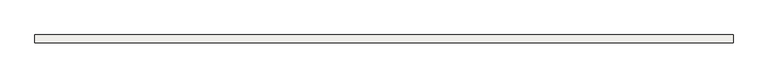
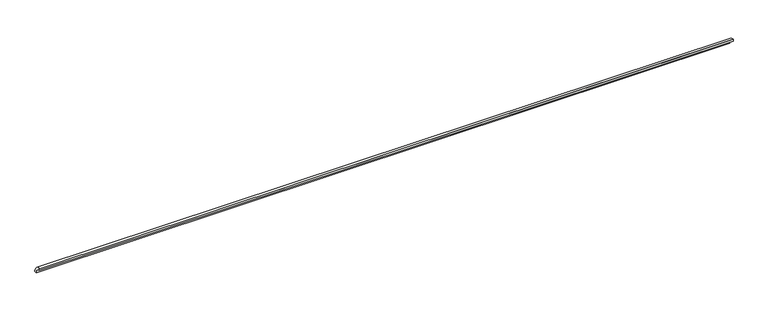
"""IFC4 building model written with IfcOpenShell, lengths in millimetres: slab geometry, ROSA GRES_138 : Pieza 138_Aqua_Plomo_Anti-Slip."""

from ifc_helpers import new_model, si_unit, point, frame, frame_2d, origin, origin_2d, place, context, project, spatial, polyline, circle_curve, trimmed, segment, composite_curve, outline, extrude, source, transform, mapped, element, save


def slab_d9ea31a1(model_context):
    return source(origin(), model_context, "Body", "SweptSolid", [
        extrude(outline(composite_curve([segment(trimmed(circle_curve(origin_2d(), 40.0), [point((0.0, 40.0))], [point((40.0, 0.0))], False, "CARTESIAN"), True, "CONTINUOUS"), segment(polyline([(40.0, 0.0), (30.0265886, 0.0)]), True, "CONTINUOUS"), segment(trimmed(circle_curve(frame_2d((0.0044453, 0.0044453)), 30.0221435), [point((30.0265886, 0.0))], [point((0.0, 30.0265886))], True, "CARTESIAN"), True, "CONTINUOUS"), segment(polyline([(0.0, 30.0265886), (0.0, 40.0)]), True, "CONTINUOUS")], self_intersect=False)), frame((0.0, 0.0, 0.0), z_axis=(1.0, 0.0, 0.0), x_axis=(0.0, 1.0, 0.0)), (0.0, 0.0, 1.0), 3560.0),
    ])


if __name__ == "__main__":
    model = new_model("IFC4")
    model_context = context("Model", 3, world=origin())
    ifc_project = project(units=[si_unit("LENGTHUNIT", "METRE", prefix="MILLI")], contexts=[model_context])
    site = spatial("IfcSite", under=ifc_project)
    building = spatial("IfcBuilding", under=site)
    placement = place(None, origin())
    slab_shape = slab_d9ea31a1(model_context)
    element("IfcSlab", 1, ObjectType="ROSA GRES_138 : Pieza 138_Aqua_Plomo_Anti-Slip", at=placement, inside=building, context=model_context, shape_type="MappedRepresentation", body=[
        mapped(slab_shape, transform((0.0, 0.0, 0.0), x_axis=(1.0, 0.0, 0.0), y_axis=(0.0, 1.0, 0.0), z_axis=(0.0, 0.0, 1.0))),
    ])
    save(model, "model.ifc")
